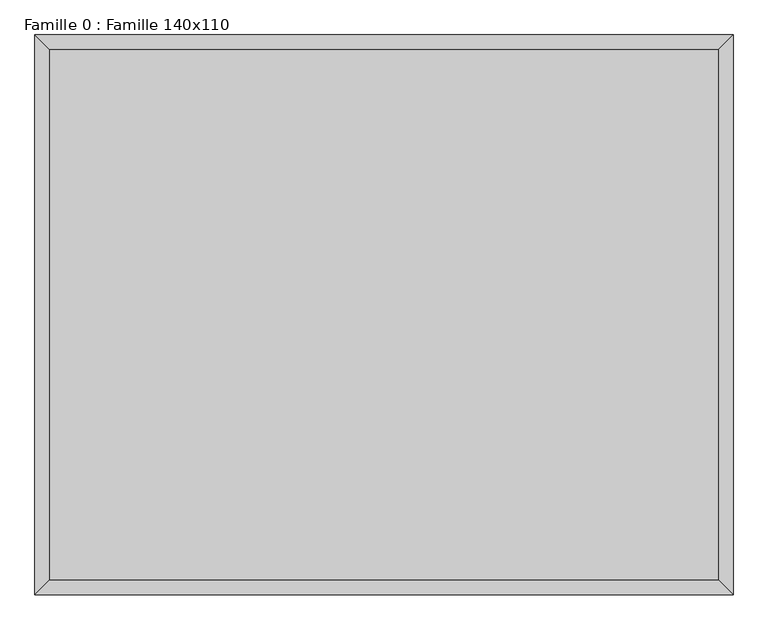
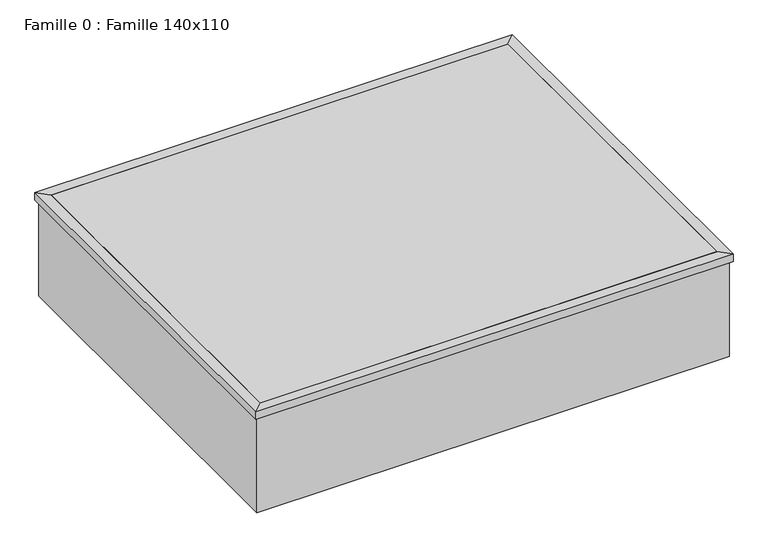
"""IFC4 building model written with IfcOpenShell, lengths in millimetres: proxy geometry, Famille 0 : Famille 140x110."""

import ifcopenshell
import ifcopenshell.guid

model = None  # the IFC model being written
_history = None  # IfcOwnerHistory: only IFC2X3 demands one
_inside = {}  # id of a spatial element -> (the spatial element, [elements in it])
_under = {}  # id of a project, library or spatial element -> (it, [spatial elements below it])
_declared = {}  # id of a project -> (the project, [libraries it declares])
_typed = {}  # id of a type object -> (the type object, [elements of that type])
_made_of = {}  # id of a material, layer set ... -> (it, [elements and type objects made of it])


def new_model(schema):
    """Start an empty IFC model of exactly this schema.

    Asked for "IFC4X3", IfcOpenShell would pick the latest addendum, in which some entities
    have other attributes; the version numbers below select the first issue.
    IFC2X3 requires an IfcOwnerHistory on every rooted entity: one is made here for all.
    """
    global model, _history
    if schema == "IFC4X3":
        model = ifcopenshell.file(schema_version=(4, 3, 0, 0))
    else:
        model = ifcopenshell.file(schema=schema)
    _inside.clear()
    _under.clear()
    _declared.clear()
    _typed.clear()
    _made_of.clear()
    _history = None
    if model.schema == "IFC2X3":
        org = make("IfcOrganization", Name="unknown")
        user = make(
            "IfcPersonAndOrganization",
            ThePerson=make("IfcPerson", FamilyName="unknown"),
            TheOrganization=org,
        )
        app = make(
            "IfcApplication",
            ApplicationDeveloper=org,
            Version="unknown",
            ApplicationFullName="unknown",
            ApplicationIdentifier="unknown",
        )
        _history = make(
            "IfcOwnerHistory",
            OwningUser=user,
            OwningApplication=app,
            ChangeAction="ADDED",
            CreationDate=0,
        )
    return model


def make(cls, **values):
    """One entity of the class cls with the attributes given. An attribute that is None is left unset."""
    return model.create_entity(
        cls, **{name: value for name, value in values.items() if value is not None}
    )


def rooted(cls, **values):
    """An entity with a GlobalId (a new one), such as an element, a storey or a relation."""
    return make(cls, GlobalId=ifcopenshell.guid.new(), OwnerHistory=_history, **values)


def si_unit(unit_type, name, prefix=None):
    """IfcSIUnit, for example si_unit("LENGTHUNIT", "METRE", prefix="MILLI")."""
    return make("IfcSIUnit", UnitType=unit_type, Prefix=prefix, Name=name)


def assignment(units):
    """IfcUnitAssignment: the units of a project."""
    return None if units is None else make("IfcUnitAssignment", Units=units)


def point(xyz):
    """IfcCartesianPoint."""
    return None if xyz is None else make("IfcCartesianPoint", Coordinates=xyz)


def direction(xyz):
    """IfcDirection."""
    return None if xyz is None else make("IfcDirection", DirectionRatios=xyz)


def frame(location, z_axis=None, x_axis=None):
    """IfcAxis2Placement3D, a coordinate frame: its origin and axes. An axis left out is left unset."""
    return make(
        "IfcAxis2Placement3D",
        Location=point(location),
        Axis=direction(z_axis),
        RefDirection=direction(x_axis),
    )


def origin():
    """The frame at (0, 0, 0) with its axes left unset."""
    return frame((0.0, 0.0, 0.0))


def place(relative_to, where):
    """IfcLocalPlacement: puts the frame where relative to a parent placement (None: the world)."""
    return make(
        "IfcLocalPlacement", PlacementRelTo=relative_to, RelativePlacement=where
    )


def context(
    kind, dimensions, precision=None, world=None, true_north=None, identifier=None
):
    """IfcGeometricRepresentationContext, for example the 3D "Model" context."""
    return make(
        "IfcGeometricRepresentationContext",
        ContextIdentifier=identifier,
        ContextType=kind,
        CoordinateSpaceDimension=dimensions,
        Precision=precision,
        WorldCoordinateSystem=world,
        TrueNorth=true_north,
    )


def project(units=None, contexts=None):
    """IfcProject with its units and contexts."""
    return rooted(
        "IfcProject",
        Name="project",
        RepresentationContexts=contexts,
        UnitsInContext=assignment(units),
    )


def spatial(cls, under=None, at=None, **own):
    """A site, building, storey or space (cls), placed at a placement, below another one or the project."""
    s = rooted(cls, ObjectPlacement=at, **own)
    if under is not None:
        _under.setdefault(under.id(), (under, []))[1].append(s)
    return s


def polyline(points):
    """IfcPolyline through the points."""
    return make("IfcPolyline", Points=[point(p) for p in points])


def outline(outer, holes=None, kind="AREA"):
    """IfcArbitraryClosedProfileDef: a profile drawn as a closed curve; with holes, ...WithVoids."""
    if holes is None:
        return make("IfcArbitraryClosedProfileDef", ProfileType=kind, OuterCurve=outer)
    return make(
        "IfcArbitraryProfileDefWithVoids",
        ProfileType=kind,
        OuterCurve=outer,
        InnerCurves=holes,
    )


def extrude(swept, where, along, depth):
    """IfcExtrudedAreaSolid: the profile swept, set in the frame where, extruded along a direction by depth."""
    return make(
        "IfcExtrudedAreaSolid",
        SweptArea=swept,
        Position=where,
        ExtrudedDirection=direction(along),
        Depth=depth,
    )


def faces_of(points, faces, orient=None, outer=None):
    """IfcFace entities. A face is a list of loops; a loop is a list of indices into points, from 0.

    orient and outer hold one flag for each loop. By default every Orientation is true, the
    first loop of a face is its IfcFaceOuterBound and the others are IfcFaceBound.
    """
    made = []
    for i, loops in enumerate(faces):
        bounds = []
        for j, loop in enumerate(loops):
            is_outer = j == 0 if outer is None else outer[i][j]
            bounds.append(
                make(
                    "IfcFaceOuterBound" if is_outer else "IfcFaceBound",
                    Bound=make("IfcPolyLoop", Polygon=[points[k] for k in loop]),
                    Orientation=True if orient is None else orient[i][j],
                )
            )
        made.append(make("IfcFace", Bounds=bounds))
    return made


def faceted_brep(points, faces, orient=None, outer=None, voids=None):
    """IfcFacetedBrep: a solid bounded by flat faces; with voids (closed shells), ...WithVoids."""
    shared = [point(p) for p in points]
    hull = make("IfcClosedShell", CfsFaces=faces_of(shared, faces, orient, outer))
    if voids is None:
        return make("IfcFacetedBrep", Outer=hull)
    return make(
        "IfcFacetedBrepWithVoids",
        Outer=hull,
        Voids=[
            make(cls, CfsFaces=faces_of(shared, fs, o, b)) for cls, fs, o, b in voids
        ],
    )


def shape(context_of_items, identifier, shape_type, items):
    """IfcShapeRepresentation: the items that make up one representation, for example the "Body"."""
    return make(
        "IfcShapeRepresentation",
        ContextOfItems=context_of_items,
        RepresentationIdentifier=identifier,
        RepresentationType=shape_type,
        Items=items,
    )


def source(mapping_origin, context_of_items, identifier, shape_type, items):
    """IfcRepresentationMap: a shape defined once, which mapped items show again and again."""
    return make(
        "IfcRepresentationMap",
        MappingOrigin=mapping_origin,
        MappedRepresentation=shape(context_of_items, identifier, shape_type, items),
    )


def transform(
    local_origin,
    x_axis=None,
    y_axis=None,
    z_axis=None,
    scale=None,
    scale2=None,
    scale3=None,
    uniform=True,
):
    """IfcCartesianTransformationOperator3D, or its non-uniform kind. x_axis, y_axis, z_axis: its Axis1, 2, 3."""
    if uniform:
        return make(
            "IfcCartesianTransformationOperator3D",
            Axis1=direction(x_axis),
            Axis2=direction(y_axis),
            LocalOrigin=point(local_origin),
            Scale=scale,
            Axis3=direction(z_axis),
        )
    return make(
        "IfcCartesianTransformationOperator3DnonUniform",
        Axis1=direction(x_axis),
        Axis2=direction(y_axis),
        LocalOrigin=point(local_origin),
        Scale=scale,
        Axis3=direction(z_axis),
        Scale2=scale2,
        Scale3=scale3,
    )


def mapped(mapping_source, mapping_target):
    """IfcMappedItem: shows the shape of a source again, moved by a transform."""
    return make(
        "IfcMappedItem", MappingSource=mapping_source, MappingTarget=mapping_target
    )


def made_of(thing, what):
    """Note that an element or type object is made of a material, layer set ...; save() writes the relation."""
    if what is not None:
        _made_of.setdefault(what.id(), (what, []))[1].append(thing)
    return thing


def element(
    cls,
    number,
    at=None,
    inside=None,
    cuts=None,
    type_object=None,
    material=None,
    context=None,
    identifier="Body",
    shape_type=None,
    held_by="IfcProductDefinitionShape",
    body=None,
    shapes=None,
    **own,
):
    """One element of the class cls, such as IfcWall. Its Tag is "e" and its number.

    at: its placement. inside: the storey or other place that contains it. cuts: it is an
    opening in that element (IfcRelVoidsElement). A single representation is given by context,
    identifier, shape_type and body (its items); several are given by shapes. held_by: the class
    of the entity that holds the representations. save() writes the other relations.
    """
    e = rooted(cls, Tag="e%d" % number, ObjectPlacement=at, **own)
    if body is not None:
        shapes = [shape(context, identifier, shape_type, body)]
    if shapes is not None:
        e.Representation = make(held_by, Representations=shapes)
    if inside is not None:
        _inside.setdefault(inside.id(), (inside, []))[1].append(e)
    if cuts is not None:
        rooted(
            "IfcRelVoidsElement", RelatingBuildingElement=cuts, RelatedOpeningElement=e
        )
    if type_object is not None:
        _typed.setdefault(type_object.id(), (type_object, []))[1].append(e)
    return made_of(e, material)


def aggregate(whole, parts):
    """IfcRelAggregates: a whole, such as a stair, and the parts it consists of."""
    return rooted("IfcRelAggregates", RelatingObject=whole, RelatedObjects=parts)


def save(model, path):
    """Write the relations noted so far, then the file.

    IfcRelAggregates (storeys below a building ...), IfcRelContainedInSpatialStructure (elements
    in a storey), IfcRelDefinesByType, IfcRelAssociatesMaterial and IfcRelDeclares: one each for
    every whole, place, type object, material and project.
    """
    for whole, parts in _under.values():
        aggregate(whole, parts)
    for where, things in _inside.values():
        rooted(
            "IfcRelContainedInSpatialStructure",
            RelatedElements=things,
            RelatingStructure=where,
        )
    for kind, things in _typed.values():
        rooted("IfcRelDefinesByType", RelatedObjects=things, RelatingType=kind)
    for what, things in _made_of.values():
        rooted("IfcRelAssociatesMaterial", RelatedObjects=things, RelatingMaterial=what)
    for by, libraries in _declared.values():
        rooted("IfcRelDeclares", RelatingContext=by, RelatedDefinitions=libraries)
    model.write(path)


def famille_0_famille_140x110_e096d3c4(model_context):
    return source(origin(), model_context, "Body", "SolidModel", [
        extrude(outline(polyline([(725.0, -575.0), (-725.0, -575.0), (-725.0, 575.0), (725.0, 575.0), (725.0, -575.0)])), frame((0.0, 0.0, 175.9914971), z_axis=(0.0, 0.0, 1.0), x_axis=(1.0, 0.0, 0.0)), (0.0, 0.0, 1.0), 19.1625783),
        faceted_brep([(-757.5, -607.5, 170.0), (-750.0, -600.0, 170.0), (750.0, -600.0, 170.0), (757.5, -607.5, 170.0), (-725.0, -575.0, 195.1540754), (-757.5, -607.5, 195.1540754), (757.5, -607.5, 195.1540754), (725.0, -575.0, 195.1540754), (-725.0, -575.0, 175.9914971), (725.0, -575.0, 175.9914971), (-700.0, -550.0, 175.9914971), (700.0, -550.0, 175.9914971), (-700.0, -550.0, -150.0), (700.0, -550.0, -150.0), (-750.0, -600.0, -150.0), (750.0, -600.0, -150.0), (750.0, 600.0, 170.0), (757.5, 607.5, 170.0), (757.5, 607.5, 195.1540754), (725.0, 575.0, 195.1540754), (725.0, 575.0, 175.9914971), (700.0, 550.0, 175.9914971), (700.0, 550.0, -150.0), (750.0, 600.0, -150.0), (-750.0, 600.0, 170.0), (-757.5, 607.5, 170.0), (-757.5, 607.5, 195.1540754), (-725.0, 575.0, 195.1540754), (-725.0, 575.0, 175.9914971), (-700.0, 550.0, 175.9914971), (-700.0, 550.0, -150.0), (-750.0, 600.0, -150.0)], [[[0, 1, 2, 3]], [[4, 5, 6, 7]], [[8, 4, 7, 9]], [[10, 8, 9, 11]], [[12, 10, 11, 13]], [[14, 12, 13, 15]], [[3, 2, 16, 17]], [[7, 6, 18, 19]], [[9, 7, 19, 20]], [[11, 9, 20, 21]], [[13, 11, 21, 22]], [[15, 13, 22, 23]], [[17, 16, 24, 25]], [[19, 18, 26, 27]], [[20, 19, 27, 28]], [[21, 20, 28, 29]], [[22, 21, 29, 30]], [[23, 22, 30, 31]], [[25, 24, 1, 0]], [[27, 26, 5, 4]], [[28, 27, 4, 8]], [[29, 28, 8, 10]], [[30, 29, 10, 12]], [[31, 30, 12, 14]], [[1, 14, 15, 2]], [[5, 0, 3, 6]], [[2, 15, 23, 16]], [[6, 3, 17, 18]], [[16, 23, 31, 24]], [[18, 17, 25, 26]], [[24, 31, 14, 1]], [[26, 25, 0, 5]]]),
    ])


if __name__ == "__main__":
    model = new_model("IFC4")
    model_context = context("Model", 3, world=origin())
    ifc_project = project(units=[si_unit("LENGTHUNIT", "METRE", prefix="MILLI")], contexts=[model_context])
    site = spatial("IfcSite", under=ifc_project)
    building = spatial("IfcBuilding", under=site)
    placement = place(None, origin())
    famille_0_famille_140x110_shape = famille_0_famille_140x110_e096d3c4(model_context)
    element("IfcBuildingElementProxy", 1, Name="Famille 0 : Famille 140x110", ObjectType="Famille 0 : Famille 140x110", at=placement, inside=building, context=model_context, shape_type="MappedRepresentation", body=[
        mapped(famille_0_famille_140x110_shape, transform((0.0, 0.0, 0.0), x_axis=(1.0, 0.0, 0.0), y_axis=(0.0, 1.0, 0.0), z_axis=(0.0, 0.0, 1.0))),
    ])
    save(model, "model.ifc")
